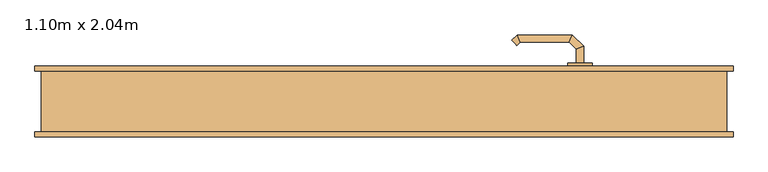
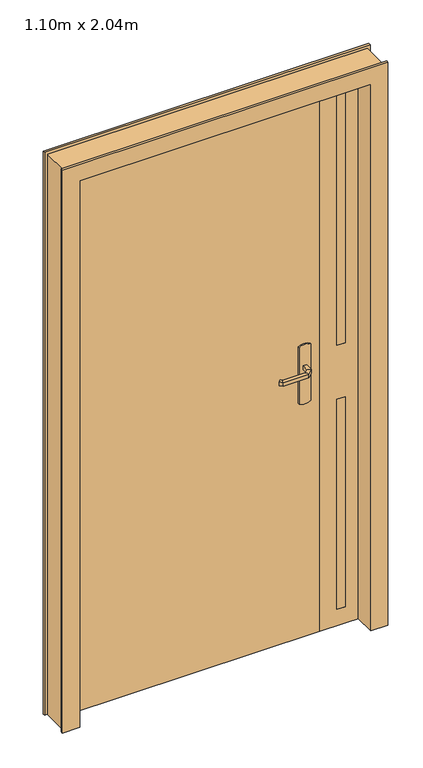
"""IFC4 building model written with IfcOpenShell, lengths in millimetres: door geometry, Tierce  160 : 1.10m x 2.04m."""

from ifc_helpers import new_model, si_unit, point, frame, frame_2d, origin, origin_with_axes, place, context, project, spatial, polyline, circle_curve, ellipse_curve, trimmed, segment, composite_curve, outline, extrude, faceted_brep, source, transform, mapped, element, save
from ifc_brep_helpers import plane_surface, cylinder_surface, advanced_brep


def door_1_10m_x_2_04m_af5b6f76(model_context):
    return source(origin(), model_context, "Body", "SolidModel", [
        advanced_brep(
        [(314.0, 13.0, 993.0), (314.0, 13.0, 1007.0), (326.0, 13.0, 1007.0), (326.0, 13.0, 993.0), (314.0, -9.4852045, 993.0), (314.0, -9.4852045, 1007.0), (326.0, -14.4557673, 1007.0), (326.0, -14.4557673, 993.0), (302.5147186, -20.9704859, 993.0), (302.5147186, -20.9704859, 1007.0), (307.4852814, -32.9704859, 1007.0), (307.4852814, -32.9704859, 993.0), (222.4394977, -20.9704859, 993.0), (222.4394977, -20.9704859, 1007.0), (217.468935, -32.9704859, 1007.0), (217.468935, -32.9704859, 993.0), (217.1257892, -15.6567774, 993.0), (208.6405078, -24.1420588, 993.0), (208.6405078, -24.1420588, 1007.0), (217.1257892, -15.6567774, 1007.0)],
        [
            (0, 1),
            (1, 2, circle_curve(frame((320.0, 13.0, 986.9542278), z_axis=(0.0, 1.0, 0.0), x_axis=(1.0, 0.0, 0.0)), 20.9244589)),
            (2, 3),
            (3, 0, circle_curve(frame((320.0, 13.0, 1013.0457722), z_axis=(0.0, 1.0, 0.0), x_axis=(1.0, 0.0, 0.0)), 20.9244589)),
            (0, 4),
            (4, 5),
            (5, 1),
            (5, 6, ellipse_curve(frame((320.0, -11.9704859, 986.9542278), z_axis=(0.38268343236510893, 0.9238795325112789, 0.0), x_axis=(-0.9238795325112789, 0.3826834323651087, 0.0)), 22.6484711, 20.9244589)),
            (6, 2),
            (6, 7),
            (7, 3),
            (7, 4, ellipse_curve(frame((320.0, -11.9704859, 1013.0457722), z_axis=(0.38268343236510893, 0.9238795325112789, 0.0), x_axis=(-0.9238795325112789, 0.3826834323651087, 0.0)), 22.6484711, 20.9244589)),
            (4, 8),
            (8, 9),
            (9, 5),
            (9, 10, ellipse_curve(frame((305.0, -26.9704859, 986.9542278), z_axis=(0.9238795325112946, 0.38268343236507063, 0.0), x_axis=(-0.3826834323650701, 0.9238795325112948, 0.0)), 22.6484711, 20.9244589)),
            (10, 6),
            (10, 11),
            (11, 7),
            (11, 8, ellipse_curve(frame((305.0, -26.9704859, 1013.0457722), z_axis=(0.9238795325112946, 0.38268343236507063, 0.0), x_axis=(-0.3826834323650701, 0.9238795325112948, 0.0)), 22.6484711, 20.9244589)),
            (8, 12),
            (12, 13),
            (13, 9),
            (13, 14, ellipse_curve(frame((219.9542163, -26.9704859, 986.9542278), z_axis=(0.9238795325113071, -0.38268343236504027, 0.0), x_axis=(0.38268343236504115, 0.9238795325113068, 0.0)), 22.6484711, 20.9244589)),
            (14, 10),
            (14, 15),
            (15, 11),
            (15, 12, ellipse_curve(frame((219.9542163, -26.9704859, 1013.0457722), z_axis=(0.9238795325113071, -0.38268343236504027, 0.0), x_axis=(0.38268343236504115, 0.9238795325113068, 0.0)), 22.6484711, 20.9244589)),
            (16, 17, circle_curve(frame((212.8831485, -19.8994181, 1013.0457722), z_axis=(-0.7071067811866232, 0.7071067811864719, 0.0), x_axis=(-0.7071067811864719, -0.7071067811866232, 0.0)), 20.9244589)),
            (17, 18),
            (18, 19, circle_curve(frame((212.8831485, -19.8994181, 986.9542278), z_axis=(-0.7071067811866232, 0.7071067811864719, 0.0), x_axis=(-0.7071067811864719, -0.7071067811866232, 0.0)), 20.9244589)),
            (19, 16),
            (12, 16),
            (19, 13),
            (18, 14),
            (17, 15),
        ],
        [
            plane_surface(frame((329.2195445, 13.0, 1000.0), z_axis=(0.0, 1.0, 0.0), x_axis=(0.0, 0.0, 1.0))),
            plane_surface(frame((314.0, 13.0, 993.0), z_axis=(-1.0, 0.0, 0.0), x_axis=(0.0, -1.0, 0.0))),
            cylinder_surface(frame((320.0, 13.0, 986.9542278), z_axis=(0.0, 1.0, 0.0), x_axis=(1.0, 0.0, 0.0)), 20.9244589),
            plane_surface(frame((326.0, 13.0, 1007.0), z_axis=(1.0, 0.0, 0.0), x_axis=(0.0, -1.0, 0.0))),
            cylinder_surface(frame((320.0, 13.0, 1013.0457722), z_axis=(0.0, 1.0, 0.0), x_axis=(1.0, 0.0, 0.0)), 20.9244589),
            plane_surface(frame((314.0, -9.4852045, 993.0), z_axis=(-0.707106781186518, 0.707106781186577, 0.0), x_axis=(-0.707106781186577, -0.707106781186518, 0.0))),
            cylinder_surface(frame((320.0, -11.9704859, 986.9542278), z_axis=(0.7071067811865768, 0.7071067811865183, 0.0), x_axis=(0.7071067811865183, -0.7071067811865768, 0.0)), 20.9244589),
            plane_surface(frame((326.0, -14.4557673, 1007.0), z_axis=(0.7071067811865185, -0.7071067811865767, 0.0), x_axis=(-0.7071067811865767, -0.7071067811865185, 0.0))),
            cylinder_surface(frame((320.0, -11.9704859, 1013.0457722), z_axis=(0.7071067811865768, 0.7071067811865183, 0.0), x_axis=(0.7071067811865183, -0.7071067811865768, 0.0)), 20.9244589),
            plane_surface(frame((302.5147186, -20.9704859, 993.0), z_axis=(0.0, 1.0, 0.0), x_axis=(-1.0, 0.0, 0.0))),
            cylinder_surface(frame((305.0, -26.9704859, 986.9542278), z_axis=(1.0, 0.0, 0.0), x_axis=(0.0, -1.0, 0.0)), 20.9244589),
            plane_surface(frame((307.4852814, -32.9704859, 1007.0), z_axis=(0.0, -1.0, 0.0), x_axis=(-1.0, 0.0, 0.0))),
            cylinder_surface(frame((305.0, -26.9704859, 1013.0457722), z_axis=(1.0, 0.0, 0.0), x_axis=(0.0, -1.0, 0.0)), 20.9244589),
            plane_surface(frame((212.8831485, -19.8994181, 990.7804555), z_axis=(-0.7071067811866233, 0.7071067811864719, 0.0), x_axis=(-0.7071067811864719, -0.7071067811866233, 0.0))),
            plane_surface(frame((222.4394977, -20.9704859, 993.0), z_axis=(0.707106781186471, 0.7071067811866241, 0.0), x_axis=(-0.7071067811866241, 0.707106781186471, 0.0))),
            cylinder_surface(frame((219.9542163, -26.9704859, 986.9542278), z_axis=(0.7071067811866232, -0.7071067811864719, 0.0), x_axis=(-0.7071067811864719, -0.7071067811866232, 0.0)), 20.9244589),
            plane_surface(frame((217.468935, -32.9704859, 1007.0), z_axis=(-0.7071067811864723, -0.7071067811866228, 0.0), x_axis=(-0.7071067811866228, 0.7071067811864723, 0.0))),
            cylinder_surface(frame((219.9542163, -26.9704859, 1013.0457722), z_axis=(0.7071067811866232, -0.7071067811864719, 0.0), x_axis=(-0.7071067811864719, -0.7071067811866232, 0.0)), 20.9244589),
        ],
        [
            (0, [[1, 2, 3, 4]]),
            (1, [[-1, 5, 6, 7]]),
            (2, [[-2, -7, 8, 9]]),
            (3, [[-3, -9, 10, 11]]),
            (4, [[-4, -11, 12, -5]]),
            (5, [[-6, 13, 14, 15]]),
            (6, [[-8, -15, 16, 17]]),
            (7, [[-10, -17, 18, 19]]),
            (8, [[-12, -19, 20, -13]]),
            (9, [[-14, 21, 22, 23]]),
            (10, [[-16, -23, 24, 25]]),
            (11, [[-18, -25, 26, 27]]),
            (12, [[-20, -27, 28, -21]]),
            (13, [[29, 30, 31, 32]]),
            (14, [[-22, 33, -32, 34]]),
            (15, [[-24, -34, -31, 35]]),
            (16, [[-26, -35, -30, 36]]),
            (17, [[-28, -36, -29, -33]]),
        ],
    ),
        advanced_brep(
        [(326.0, 63.0, 1007.0), (314.0, 63.0, 1007.0), (314.0, 63.0, 993.0), (326.0, 63.0, 993.0), (326.0, 90.6509507, 1007.0), (314.0, 85.680388, 1007.0), (314.0, 85.680388, 993.0), (326.0, 90.6509507, 993.0), (307.62279, 109.0281607, 1007.0), (302.6522273, 97.0281607, 1007.0), (302.6522273, 97.0281607, 993.0), (307.62279, 109.0281607, 993.0), (217.496078, 109.0281607, 1007.0), (222.4666408, 97.0281607, 1007.0), (222.4666408, 97.0281607, 993.0), (217.496078, 109.0281607, 993.0), (208.6676509, 100.1997336, 1007.0), (208.6676509, 100.1997336, 993.0), (217.1529323, 91.7144522, 993.0), (217.1529323, 91.7144522, 1007.0)],
        [
            (0, 1, circle_curve(frame((320.0, 63.0, 986.9542278), z_axis=(0.0, -1.0, 0.0), x_axis=(-1.0, 0.0, 0.0)), 20.9244589)),
            (1, 2),
            (2, 3, circle_curve(frame((320.0, 63.0, 1013.0457722), z_axis=(0.0, -1.0, 0.0), x_axis=(-1.0, 0.0, 0.0)), 20.9244589)),
            (3, 0),
            (0, 4),
            (4, 5, ellipse_curve(frame((320.0, 88.1656693, 986.9542278), z_axis=(0.3826834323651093, -0.9238795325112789, 0.0), x_axis=(-0.9238795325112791, -0.38268343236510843, 0.0)), 22.6484711, 20.9244589)),
            (5, 1),
            (5, 6),
            (6, 2),
            (6, 7, ellipse_curve(frame((320.0, 88.1656693, 1013.0457722), z_axis=(0.3826834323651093, -0.9238795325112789, 0.0), x_axis=(-0.9238795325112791, -0.38268343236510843, 0.0)), 22.6484711, 20.9244589)),
            (7, 3),
            (7, 4),
            (4, 8),
            (8, 9, ellipse_curve(frame((305.1375086, 103.0281607, 986.9542278), z_axis=(0.9238795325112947, -0.38268343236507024, 0.0), x_axis=(-0.3826834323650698, -0.9238795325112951, 0.0)), 22.6484711, 20.9244589)),
            (9, 5),
            (9, 10),
            (10, 6),
            (10, 11, ellipse_curve(frame((305.1375086, 103.0281607, 1013.0457722), z_axis=(0.9238795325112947, -0.38268343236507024, 0.0), x_axis=(-0.3826834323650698, -0.9238795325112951, 0.0)), 22.6484711, 20.9244589)),
            (11, 7),
            (11, 8),
            (8, 12),
            (12, 13, ellipse_curve(frame((219.9813594, 103.0281607, 986.9542278), z_axis=(0.9238795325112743, 0.3826834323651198, 0.0), x_axis=(0.38268343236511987, -0.9238795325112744, 0.0)), 22.6484711, 20.9244589)),
            (13, 9),
            (13, 14),
            (14, 10),
            (14, 15, ellipse_curve(frame((219.9813594, 103.0281607, 1013.0457722), z_axis=(0.9238795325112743, 0.3826834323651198, 0.0), x_axis=(0.38268343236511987, -0.9238795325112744, 0.0)), 22.6484711, 20.9244589)),
            (15, 11),
            (15, 12),
            (16, 17),
            (17, 18, circle_curve(frame((212.9102916, 95.9570929, 1013.0457722), z_axis=(-0.7071067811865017, -0.7071067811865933, 0.0), x_axis=(0.7071067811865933, -0.7071067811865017, 0.0)), 20.9244589)),
            (18, 19),
            (19, 16, circle_curve(frame((212.9102916, 95.9570929, 986.9542278), z_axis=(-0.7071067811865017, -0.7071067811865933, 0.0), x_axis=(0.7071067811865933, -0.7071067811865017, 0.0)), 20.9244589)),
            (12, 16),
            (19, 13),
            (18, 14),
            (17, 15),
        ],
        [
            plane_surface(frame((329.2195445, 63.0, 1000.0), z_axis=(0.0, -1.0, 0.0), x_axis=(0.0, 0.0, -1.0))),
            cylinder_surface(frame((320.0, 63.0, 986.9542278), z_axis=(0.0, -1.0, 0.0), x_axis=(-1.0, 0.0, 0.0)), 20.9244589),
            plane_surface(frame((314.0, 63.0, 1007.0), z_axis=(-1.0, 0.0, 0.0), x_axis=(0.0, 1.0, 0.0))),
            cylinder_surface(frame((320.0, 63.0, 1013.0457722), z_axis=(0.0, -1.0, 0.0), x_axis=(-1.0, 0.0, 0.0)), 20.9244589),
            plane_surface(frame((326.0, 63.0, 993.0), z_axis=(1.0, 0.0, 0.0), x_axis=(0.0, 1.0, 0.0))),
            cylinder_surface(frame((320.0, 88.1656693, 986.9542278), z_axis=(0.7071067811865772, -0.7071067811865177, 0.0), x_axis=(-0.7071067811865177, -0.7071067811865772, 0.0)), 20.9244589),
            plane_surface(frame((314.0, 85.680388, 1007.0), z_axis=(-0.7071067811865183, -0.7071067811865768, 0.0), x_axis=(-0.7071067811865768, 0.7071067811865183, 0.0))),
            cylinder_surface(frame((320.0, 88.1656693, 1013.0457722), z_axis=(0.7071067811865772, -0.7071067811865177, 0.0), x_axis=(-0.7071067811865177, -0.7071067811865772, 0.0)), 20.9244589),
            plane_surface(frame((326.0, 90.6509507, 993.0), z_axis=(0.707106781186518, 0.707106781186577, 0.0), x_axis=(-0.707106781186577, 0.707106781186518, 0.0))),
            cylinder_surface(frame((305.1375086, 103.0281607, 986.9542278), z_axis=(1.0, 0.0, 0.0), x_axis=(0.0, -1.0, 0.0)), 20.9244589),
            plane_surface(frame((302.6522273, 97.0281607, 1007.0), z_axis=(0.0, -1.0, 0.0), x_axis=(-1.0, 0.0, 0.0))),
            cylinder_surface(frame((305.1375086, 103.0281607, 1013.0457722), z_axis=(1.0, 0.0, 0.0), x_axis=(0.0, -1.0, 0.0)), 20.9244589),
            plane_surface(frame((307.62279, 109.0281607, 993.0), z_axis=(0.0, 1.0, 0.0), x_axis=(-1.0, 0.0, 0.0))),
            plane_surface(frame((212.9102916, 95.9570929, 1009.2195445), z_axis=(-0.7071067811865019, -0.7071067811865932, 0.0), x_axis=(-0.7071067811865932, 0.7071067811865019, 0.0))),
            cylinder_surface(frame((219.9813594, 103.0281607, 986.9542278), z_axis=(0.7071067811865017, 0.7071067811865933, 0.0), x_axis=(0.7071067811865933, -0.7071067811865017, 0.0)), 20.9244589),
            plane_surface(frame((222.4666408, 97.0281607, 1007.0), z_axis=(0.7071067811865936, -0.7071067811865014, 0.0), x_axis=(-0.7071067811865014, -0.7071067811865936, 0.0))),
            cylinder_surface(frame((219.9813594, 103.0281607, 1013.0457722), z_axis=(0.7071067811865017, 0.7071067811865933, 0.0), x_axis=(0.7071067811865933, -0.7071067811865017, 0.0)), 20.9244589),
            plane_surface(frame((217.496078, 109.0281607, 993.0), z_axis=(-0.707106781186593, 0.7071067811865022, 0.0), x_axis=(-0.7071067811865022, -0.707106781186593, 0.0))),
        ],
        [
            (0, [[1, 2, 3, 4]]),
            (1, [[-1, 5, 6, 7]]),
            (2, [[-2, -7, 8, 9]]),
            (3, [[-3, -9, 10, 11]]),
            (4, [[-4, -11, 12, -5]]),
            (5, [[-6, 13, 14, 15]]),
            (6, [[-8, -15, 16, 17]]),
            (7, [[-10, -17, 18, 19]]),
            (8, [[-12, -19, 20, -13]]),
            (9, [[-14, 21, 22, 23]]),
            (10, [[-16, -23, 24, 25]]),
            (11, [[-18, -25, 26, 27]]),
            (12, [[-20, -27, 28, -21]]),
            (13, [[29, 30, 31, 32]]),
            (14, [[-22, 33, -32, 34]]),
            (15, [[-24, -34, -31, 35]]),
            (16, [[-26, -35, -30, 36]]),
            (17, [[-28, -36, -29, -33]]),
        ],
    ),
        extrude(outline(composite_curve([segment(polyline([(1080.0, 300.0), (870.0, 300.0)]), True, "CONTINUOUS"), segment(trimmed(circle_curve(frame_2d((904.6410162, 320.0)), 40.0), [point((870.0, 300.0))], [point((870.0, 340.0))], False, "CARTESIAN"), True, "CONTINUOUS"), segment(polyline([(870.0, 340.0), (1080.0, 340.0)]), True, "CONTINUOUS"), segment(trimmed(circle_curve(frame_2d((1045.3589838, 320.0)), 40.0), [point((1080.0, 340.0))], [point((1080.0, 300.0))], False, "CARTESIAN"), True, "CONTINUOUS")], self_intersect=False)), frame((0.0, 13.0, 0.0), z_axis=(0.0, 1.0, 0.0), x_axis=(0.0, 0.0, 1.0)), (0.0, 0.0, 1.0), 5.0),
        extrude(outline(composite_curve([segment(polyline([(870.0, 340.0), (1080.0, 340.0)]), True, "CONTINUOUS"), segment(trimmed(circle_curve(frame_2d((1045.3589838, 320.0)), 40.0), [point((1080.0, 340.0))], [point((1080.0, 300.0))], False, "CARTESIAN"), True, "CONTINUOUS"), segment(polyline([(1080.0, 300.0), (870.0, 300.0)]), True, "CONTINUOUS"), segment(trimmed(circle_curve(frame_2d((904.6410162, 320.0)), 40.0), [point((870.0, 300.0))], [point((870.0, 340.0))], False, "CARTESIAN"), True, "CONTINUOUS")], self_intersect=False)), frame((0.0, 58.0, 0.0), z_axis=(0.0, 1.0, 0.0), x_axis=(0.0, 0.0, 1.0)), (0.0, 0.0, 1.0), 5.0),
        faceted_brep([(-560.0, 50.0, 0.0), (-570.0, 50.0, 0.0), (-570.0, 58.0, 0.0), (-525.0, 58.0, 0.0), (-525.0, 18.0, 0.0), (-510.0, 18.0, 0.0), (-510.0, -58.0, 0.0), (-570.0, -58.0, 0.0), (-570.0, -50.0, 0.0), (-560.0, -50.0, 0.0), (-560.0, -50.0, 2075.0), (-560.0, 50.0, 2075.0), (-570.0, -50.0, 2085.0), (570.0, -50.0, 2085.0), (570.0, -50.0, 0.0), (560.0, -50.0, 0.0), (560.0, -50.0, 2075.0), (-570.0, -58.0, 2085.0), (-510.0, -58.0, 2025.0), (510.0, -58.0, 2025.0), (510.0, -58.0, 0.0), (570.0, -58.0, 0.0), (570.0, -58.0, 2085.0), (-510.0, 18.0, 2025.0), (-525.0, 18.0, 2040.0), (525.0, 18.0, 2040.0), (525.0, 18.0, 0.0), (510.0, 18.0, 0.0), (510.0, 18.0, 2025.0), (-525.0, 58.0, 2040.0), (-570.0, 58.0, 2085.0), (570.0, 58.0, 2085.0), (570.0, 58.0, 0.0), (525.0, 58.0, 0.0), (525.0, 58.0, 2040.0), (-570.0, 50.0, 2085.0), (560.0, 50.0, 2075.0), (560.0, 50.0, 0.0), (570.0, 50.0, 0.0), (570.0, 50.0, 2085.0)], [[[0, 1, 2, 3, 4, 5, 6, 7, 8, 9]], [[9, 10, 11, 0]], [[8, 12, 13, 14, 15, 16, 10, 9]], [[7, 17, 12, 8]], [[6, 18, 19, 20, 21, 22, 17, 7]], [[5, 23, 18, 6]], [[4, 24, 25, 26, 27, 28, 23, 5]], [[3, 29, 24, 4]], [[2, 30, 31, 32, 33, 34, 29, 3]], [[1, 35, 30, 2]], [[0, 11, 36, 37, 38, 39, 35, 1]], [[16, 15, 37, 36]], [[37, 15, 14, 21, 20, 27, 26, 33, 32, 38]], [[22, 21, 14, 13]], [[28, 27, 20, 19]], [[34, 33, 26, 25]], [[39, 38, 32, 31]], [[10, 16, 36, 11]], [[17, 22, 13, 12]], [[23, 28, 19, 18]], [[29, 34, 25, 24]], [[35, 39, 31, 30]]]),
        extrude(outline(polyline([(465.0, 58.0), (465.0, 18.0), (435.0, 18.0), (435.0, 58.0), (465.0, 58.0)])), frame((0.0, 0.0, 60.0), z_axis=(0.0, 0.0, 1.0), x_axis=(1.0, 0.0, 0.0)), (0.0, 0.0, 1.0), 777.5),
        extrude(outline(polyline([(465.0, 58.0), (465.0, 18.0), (435.0, 18.0), (435.0, 58.0), (465.0, 58.0)])), frame((0.0, 0.0, 1037.5), z_axis=(0.0, 0.0, 1.0), x_axis=(1.0, 0.0, 0.0)), (0.0, 0.0, 1.0), 942.5),
        extrude(outline(polyline([(2040.0, 525.0), (2040.0, 375.0), (0.0, 375.0), (0.0, 525.0), (2040.0, 525.0)]), holes=[polyline([(837.5, 435.0), (837.5, 465.0), (60.0, 465.0), (60.0, 435.0), (837.5, 435.0)]), polyline([(1037.5, 465.0), (1037.5, 435.0), (1980.0, 435.0), (1980.0, 465.0), (1037.5, 465.0)])]), frame((0.0, 18.0, 0.0), z_axis=(0.0, 1.0, 0.0), x_axis=(0.0, 0.0, 1.0)), (0.0, 0.0, 1.0), 40.0),
        extrude(outline(polyline([(375.0, 58.0), (375.0, 18.0), (-525.0, 18.0), (-525.0, 58.0), (375.0, 58.0)])), origin_with_axes(), (0.0, 0.0, 1.0), 2040.0),
    ])


if __name__ == "__main__":
    model = new_model("IFC4")
    model_context = context("Model", 3, world=origin())
    ifc_project = project(units=[si_unit("LENGTHUNIT", "METRE", prefix="MILLI")], contexts=[model_context])
    site = spatial("IfcSite", under=ifc_project)
    building = spatial("IfcBuilding", under=site)
    placement = place(None, origin())
    door_1_10m_x_2_04m_shape = door_1_10m_x_2_04m_af5b6f76(model_context)
    element("IfcDoor", 1, ObjectType="Tierce  160 : 1.10m x 2.04m", at=placement, inside=building, context=model_context, shape_type="MappedRepresentation", body=[
        mapped(door_1_10m_x_2_04m_shape, transform((0.0, 0.0, 0.0), x_axis=(1.0, 0.0, 0.0), y_axis=(0.0, 1.0, 0.0), z_axis=(0.0, 0.0, 1.0))),
    ])
    save(model, "model.ifc")
